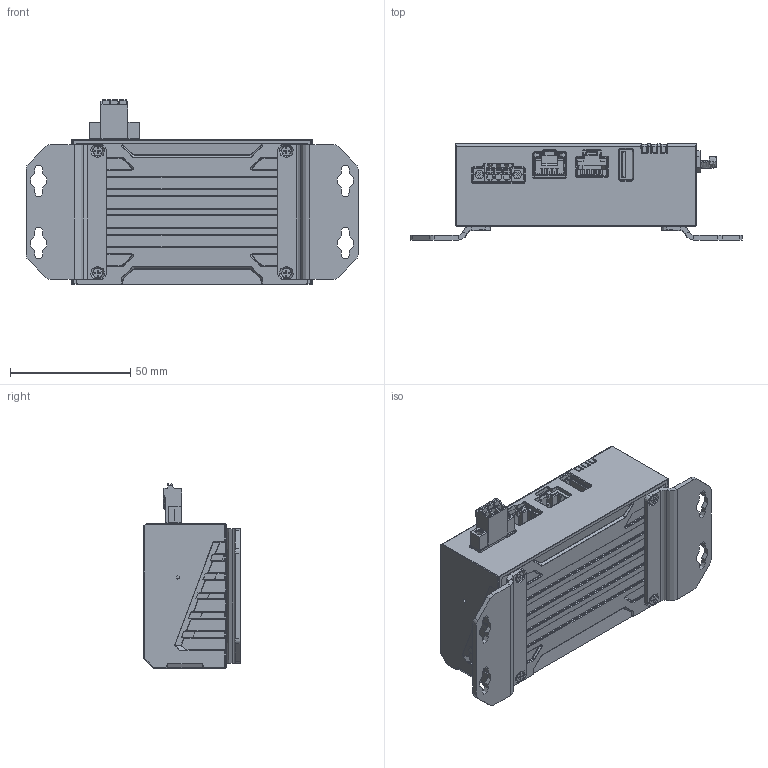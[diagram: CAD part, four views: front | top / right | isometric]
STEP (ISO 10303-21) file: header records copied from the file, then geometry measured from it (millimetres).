
FILE_DESCRIPTION((''),'2;1');
FILE_NAME('AWK_1161_WALLMOUNT_ASM','2024-04-01T14:08:36',('RositaCY_Yu'),('PTC'),'CREO PARAMETRIC BY PTC INC, 2023294','CREO PARAMETRIC BY PTC INC, 2023294','');
FILE_SCHEMA(('AUTOMOTIVE_DESIGN { 1 0 10303 214 1 1 1 1 }'));
Products named in the file (1): AWK_1161_WALLMOUNT_ASM
Bounding box: 138 x 40 x 76.6 mm (x, y, z)
Topology: 29 solids, 76 shells, 6139 faces, 16601 edges, 10412 vertices
Faces by surface type: plane 3367, cylinder 1886, bspline 264, torus 250, cone 215, sphere 148, extrusion 9
Full cylindrical faces by diameter (mm): 0.825 x1, 1.17 x2, 1.5 x3, 2.355 x2
Entity records: 247813 total; most frequent: CARTESIAN_POINT 69111, ORIENTED_EDGE 32593, DIRECTION 29920, EDGE_CURVE 16493, VECTOR 11138, LINE 11129, VERTEX_POINT 10435, AXIS2_PLACEMENT_3D 9391
